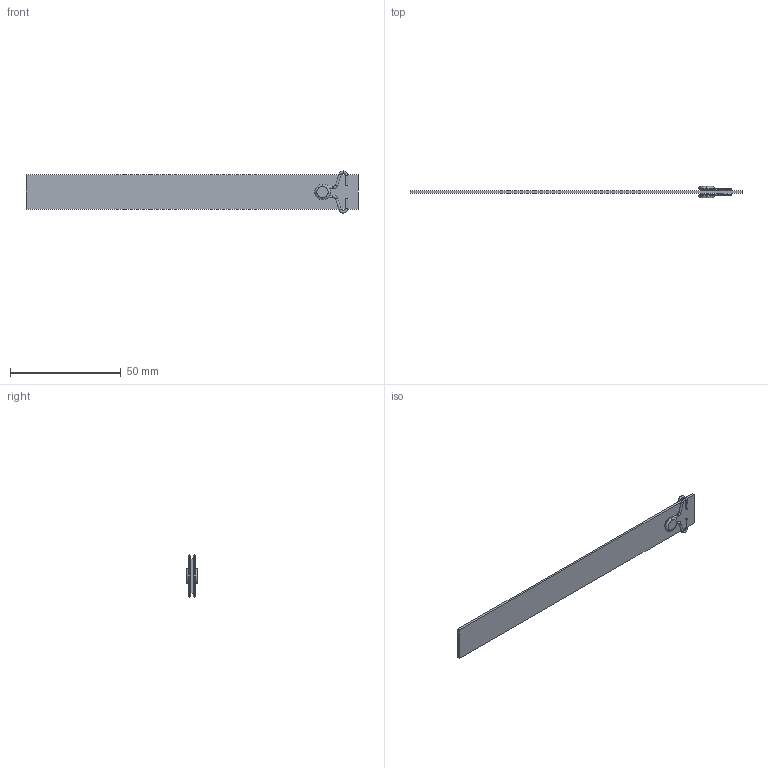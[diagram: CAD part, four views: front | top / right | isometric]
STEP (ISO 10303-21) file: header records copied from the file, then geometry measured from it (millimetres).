
FILE_DESCRIPTION (( 'STEP AP203' ), '1' );
FILE_NAME ('RLA-16x150.STEP', '2015-12-10T16:11:14', ( 'Balzi' ), ( '' ), 'SwSTEP 2.0', 'SolidWorks 2015', '' );
FILE_SCHEMA (( 'CONFIG_CONTROL_DESIGN' ));
Length unit declared in the file: millimetre
Products named in the file (1): RLA-16x150
Bounding box: 150 x 5 x 18.99 mm (x, y, z)
Volume: 2505.2 mm3; surface area: 5553 mm2
Topology: 5 solids, 5 shells, 84 faces, 162 edges, 88 vertices
Faces by surface type: torus 40, cylinder 30, plane 14
Entity records: 2199 total; most frequent: DIRECTION 452, CARTESIAN_POINT 335, ORIENTED_EDGE 324, AXIS2_PLACEMENT_3D 205, EDGE_CURVE 162, CIRCLE 120, VERTEX_POINT 88, EDGE_LOOP 86
